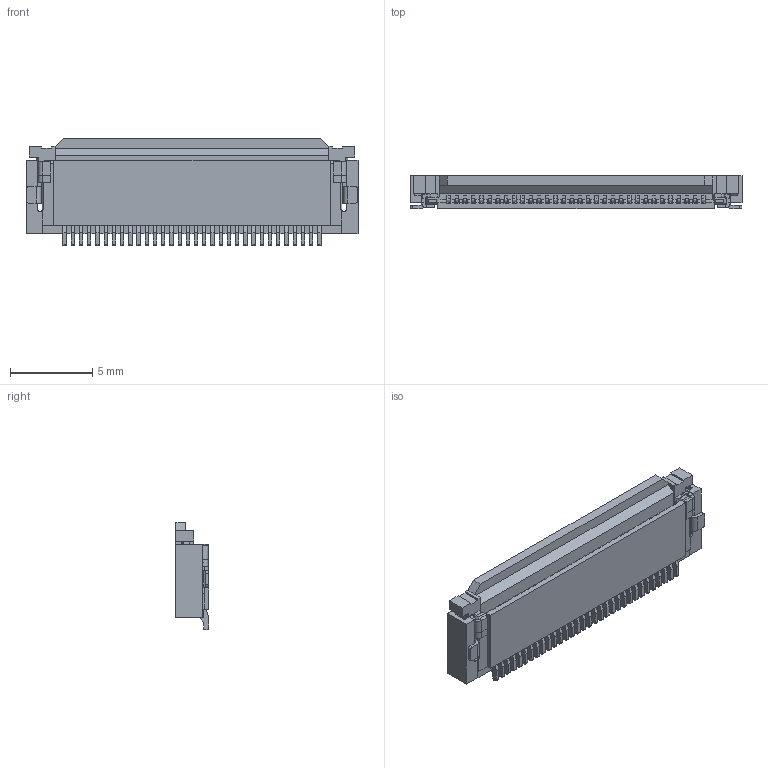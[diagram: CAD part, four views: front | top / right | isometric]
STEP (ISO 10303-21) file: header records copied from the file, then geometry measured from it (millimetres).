
FILE_DESCRIPTION((''),'2;1');
FILE_NAME('ASM0006_ASM','2014-09-24T',('k41758'),(''),'PRO/ENGINEER BY PARAMETRIC TECHNOLOGY CORPORATION, 2009360','PRO/ENGINEER BY PARAMETRIC TECHNOLOGY CORPORATION, 2009360','');
FILE_SCHEMA(('CONFIG_CONTROL_DESIGN'));
Products named in the file (1): ASM0006_ASM
Bounding box: 20.2 x 2.03 x 6.55 mm (x, y, z)
Volume: 141.9 mm3; surface area: 703.7 mm2
Topology: 1 solids, 1 shells, 1972 faces, 6780 edges, 5131 vertices
Faces by surface type: plane 1531, cylinder 441
Entity records: 72328 total; most frequent: CARTESIAN_POINT 13138, ORIENTED_EDGE 12716, DIRECTION 11875, EDGE_CURVE 6358, VECTOR 5587, LINE 5587, VERTEX_POINT 4287, AXIS2_PLACEMENT_3D 3144
